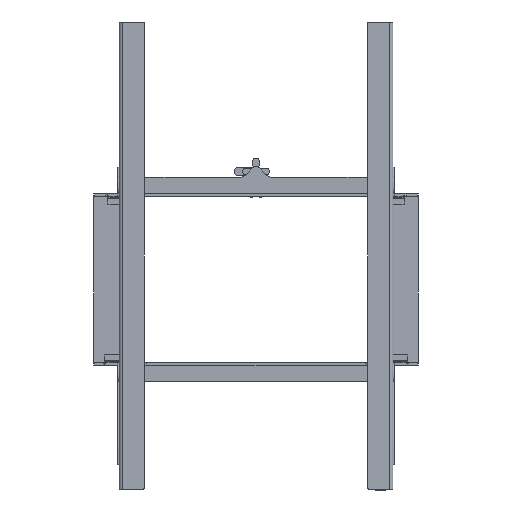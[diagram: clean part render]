
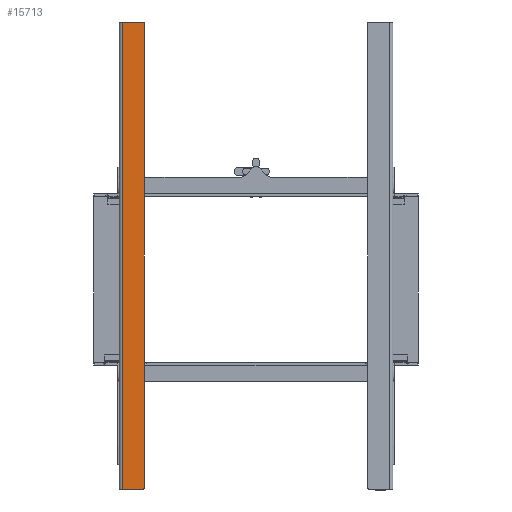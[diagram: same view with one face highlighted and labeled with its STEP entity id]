
A CAD part, front view. The second image highlights one B-rep face of the part: STEP entity #15713.
In plain terms, the highlighted planar face has unit normal (0, -1, 0).
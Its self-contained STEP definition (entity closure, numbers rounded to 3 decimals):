
#1245=FACE_OUTER_BOUND('',#2109,.T.);
#2109=EDGE_LOOP('',(#11053,#11054,#11055,#11056,#11057,#11058));
#3040=CIRCLE('',#16718,2.);
#3042=CIRCLE('',#16728,2.);
#3880=LINE('',#23483,#5352);
#3892=LINE('',#23511,#5364);
#3894=LINE('',#23514,#5366);
#3899=LINE('',#23524,#5371);
#5352=VECTOR('',#18753,10.);
#5364=VECTOR('',#18785,10.);
#5366=VECTOR('',#18789,10.);
#5371=VECTOR('',#18804,10.);
#6865=VERTEX_POINT('',#23473);
#6866=VERTEX_POINT('',#23475);
#6868=VERTEX_POINT('',#23481);
#6872=VERTEX_POINT('',#23504);
#6873=VERTEX_POINT('',#23506);
#6874=VERTEX_POINT('',#23510);
#8447=EDGE_CURVE('',#6865,#6866,#3040,.T.);
#8451=EDGE_CURVE('',#6868,#6865,#3880,.T.);
#8463=EDGE_CURVE('',#6872,#6873,#3042,.T.);
#8465=EDGE_CURVE('',#6874,#6873,#3892,.T.);
#8467=EDGE_CURVE('',#6868,#6874,#3894,.T.);
#8475=EDGE_CURVE('',#6872,#6866,#3899,.T.);
#11053=ORIENTED_EDGE('',*,*,#8447,.F.);
#11054=ORIENTED_EDGE('',*,*,#8451,.F.);
#11055=ORIENTED_EDGE('',*,*,#8467,.T.);
#11056=ORIENTED_EDGE('',*,*,#8465,.T.);
#11057=ORIENTED_EDGE('',*,*,#8463,.F.);
#11058=ORIENTED_EDGE('',*,*,#8475,.T.);
#15209=PLANE('',#16735);
#15713=ADVANCED_FACE('',(#1245),#15209,.F.);
#16718=AXIS2_PLACEMENT_3D('',#23476,#18746,#18747);
#16728=AXIS2_PLACEMENT_3D('',#23507,#18780,#18781);
#16735=AXIS2_PLACEMENT_3D('',#23523,#18802,#18803);
#18746=DIRECTION('center_axis',(0.,1.,0.));
#18747=DIRECTION('ref_axis',(0.707,0.,0.707));
#18753=DIRECTION('',(1.,0.,0.));
#18780=DIRECTION('center_axis',(0.,1.,0.));
#18781=DIRECTION('ref_axis',(0.707,0.,-0.707));
#18785=DIRECTION('',(1.,0.,0.));
#18789=DIRECTION('',(0.,0.,-1.));
#18802=DIRECTION('center_axis',(0.,1.,0.));
#18803=DIRECTION('ref_axis',(0.,0.,
-1.));
#18804=DIRECTION('',(0.,0.,1.));
#23473=CARTESIAN_POINT('',(-337.5,-623.275,524.));
#23475=CARTESIAN_POINT('',(-335.5,-623.275,522.));
#23476=CARTESIAN_POINT('Origin',(-337.5,-623.275,522.));
#23481=CARTESIAN_POINT('',(-401.25,-623.275,524.));
#23483=CARTESIAN_POINT('',(-464.081,-623.275,524.));
#23504=CARTESIAN_POINT('',(-335.5,-623.275,-877.));
#23506=CARTESIAN_POINT('',(-337.5,-623.275,-879.));
#23507=CARTESIAN_POINT('Origin',(-337.5,-623.275,-877.));
#23510=CARTESIAN_POINT('',(-401.25,-623.275,-879.));
#23511=CARTESIAN_POINT('',(-464.081,-623.275,-879.));
#23514=CARTESIAN_POINT('',(-401.25,-623.275,-177.5));
#23523=CARTESIAN_POINT('Origin',(-399.791,-623.275,-177.5));
#23524=CARTESIAN_POINT('',(-335.5,-623.275,-879.));
